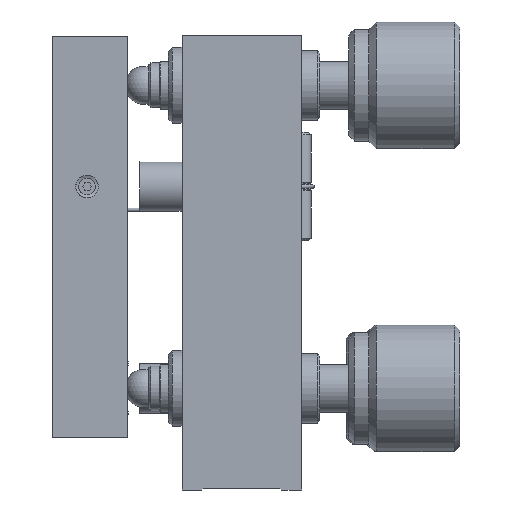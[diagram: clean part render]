
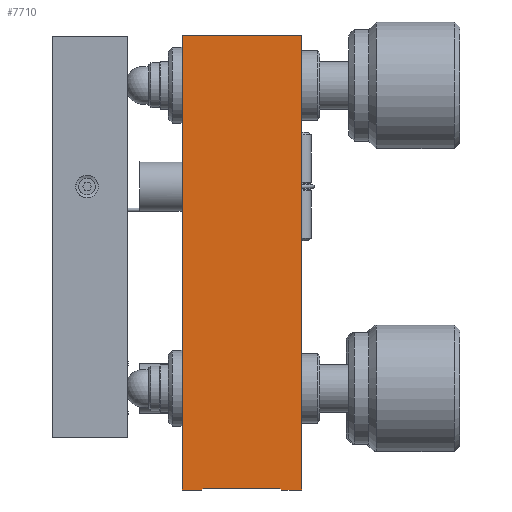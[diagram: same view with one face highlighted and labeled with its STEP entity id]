
A CAD part, left-side view. The second image highlights one B-rep face of the part: STEP entity #7710.
In plain terms, the highlighted planar face has unit normal (-1, 0, 0).
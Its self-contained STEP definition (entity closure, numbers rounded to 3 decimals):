
#7710=ADVANCED_FACE('', (#7720), #7730, .T.);
#28970=AXIS2_PLACEMENT_3D('Ax2Pl3d', #28980, #28990, #29000);
#53050=CARTESIAN_POINT('', (53.556,79.525,67.79))
;
#53060=CARTESIAN_POINT('', (53.556,79.525,124.79));
#53070=CARTESIAN_POINT('', (53.556,79.525,124.79));
#53200=CARTESIAN_POINT('', (53.556,64.525,124.79));
#53210=CARTESIAN_POINT('', (53.556,64.525,124.79));
#53220=CARTESIAN_POINT('', (53.556,64.525,67.79))
;
#53620=CARTESIAN_POINT('', (53.556,64.525,124.79));
#53640=CARTESIAN_POINT('', (53.556,77.025,67.79))
;
#53650=CARTESIAN_POINT('', (53.556,77.025,67.79));
#53670=CARTESIAN_POINT('', (53.556,76.775,68.04))
;
#53680=CARTESIAN_POINT('', (53.556,76.775,68.04));
#53700=CARTESIAN_POINT('', (53.556,67.275,68.04))
;
#53710=CARTESIAN_POINT('', (53.556,67.275,68.04));
#53740=CARTESIAN_POINT('', (53.556,67.025,67.79));
#53750=CARTESIAN_POINT('', (53.556,67.025,67.79));
#53760=CARTESIAN_POINT('', (53.556,64.525,67.79));
#28980=CARTESIAN_POINT('HicPkt', (53.556,79.525,
67.79));
#76230=DIRECTION('', (0.,0.,1.));
#76290=DIRECTION('', (0.,0.,1.));
#76450=DIRECTION('', (0.,-1.,0.));
#76470=DIRECTION('', (0.,-1.,0.));
#76490=DIRECTION('', (0.,-0.707,0.707));
#76510=DIRECTION('', (0.,-1.,0.));
#76530=DIRECTION('', (0.,-0.707,-0.707));
#76540=DIRECTION('', (0.,-1.,0.));
#28990=DIRECTION('Axis', (-1.,0.,0.)
);
#29000=DIRECTION('RefDirection', (0.,
0.,-1.));
#80950=EDGE_CURVE('', #80930, #80960, #80970, .T.);
#81210=EDGE_CURVE('', #81220, #81190, #81230, .T.);
#81890=EDGE_CURVE('', #80960, #81190, #81900, .T.);
#81940=EDGE_CURVE('', #80930, #81920, #81950, .T.);
#81990=EDGE_CURVE('', #81920, #81970, #82000, .T.);
#82040=EDGE_CURVE('', #81970, #82020, #82050, .T.);
#82110=EDGE_CURVE('', #82020, #82090, #82120, .T.);
#82130=EDGE_CURVE('', #82090, #81220, #82140, .T.);
#94000=EDGE_LOOP('Edge_loop', (#94010,#94020,#94030,#94040,#94050,
#94060,#94070,#94080));
#7720=FACE_OUTER_BOUND('Face_outer_bound', #94000, .T.);
#80970=LINE('Line', #53060, #109020);
#81230=LINE('Line', #53210, #109080);
#81900=LINE('Line', #53620, #109240);
#81950=LINE('Line', #53650, #109260);
#82000=LINE('Line', #53680, #109280);
#82050=LINE('Line', #53710, #109300);
#82120=LINE('Line', #53750, #109320);
#82140=LINE('Line', #53760, #109330);
#94010=ORIENTED_EDGE('', *, *, #81940, .T.);
#94020=ORIENTED_EDGE('', *, *, #81990, .T.);
#94030=ORIENTED_EDGE('', *, *, #82040, .T.);
#94040=ORIENTED_EDGE('', *, *, #82110, .T.);
#94050=ORIENTED_EDGE('', *, *, #82130, .T.);
#94060=ORIENTED_EDGE('', *, *, #81210, .T.);
#94070=ORIENTED_EDGE('', *, *, #81890, .F.);
#94080=ORIENTED_EDGE('', *, *, #80950, .F.);
#7730=PLANE('Plane', #28970);
#109020=VECTOR('', #76230, 57.);
#109080=VECTOR('', #76290, 57.);
#109240=VECTOR('', #76450, 15.);
#109260=VECTOR('', #76470, 2.5);
#109280=VECTOR('', #76490, 0.354);
#109300=VECTOR('', #76510, 9.5);
#109320=VECTOR('', #76530, 0.354);
#109330=VECTOR('', #76540, 2.5);
#80930=VERTEX_POINT('', #53050);
#80960=VERTEX_POINT('', #53070);
#81190=VERTEX_POINT('', #53200);
#81220=VERTEX_POINT('', #53220);
#81920=VERTEX_POINT('', #53640);
#81970=VERTEX_POINT('', #53670);
#82020=VERTEX_POINT('', #53700);
#82090=VERTEX_POINT('', #53740);
